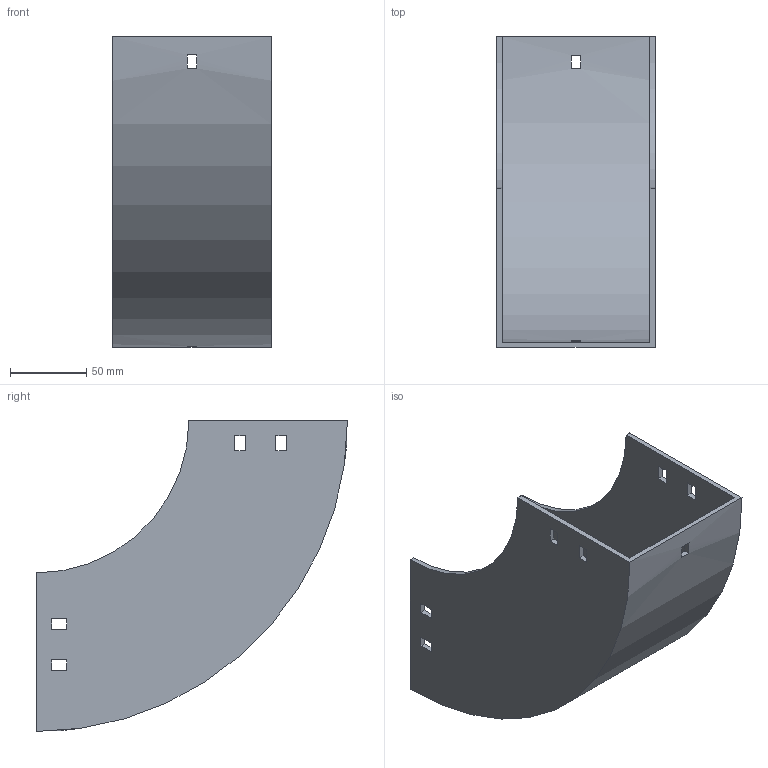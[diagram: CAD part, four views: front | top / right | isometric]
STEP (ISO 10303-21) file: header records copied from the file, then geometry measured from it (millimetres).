
FILE_DESCRIPTION (( 'STEP AP214' ), '1' );
FILE_NAME ('30B1D100.step', '2025-02-21T09:48:29', ( '' ), ( '' ), 'SwSTEP 2.0', 'SolidWorks 2023', '' );
FILE_SCHEMA (( 'AUTOMOTIVE_DESIGN' ));
Length unit declared in the file: millimetre
Products named in the file (1): 30B1D100
Bounding box: 104 x 204 x 204 mm (x, y, z)
Volume: 279304.1 mm3; surface area: 164025.9 mm2
Topology: 1 solids, 1 shells, 50 faces, 144 edges, 96 vertices
Faces by surface type: plane 46, cylinder 4
Entity records: 1687 total; most frequent: CARTESIAN_POINT 291, ORIENTED_EDGE 288, DIRECTION 262, EDGE_CURVE 144, LINE 128, VECTOR 128, VERTEX_POINT 96, EDGE_LOOP 70
